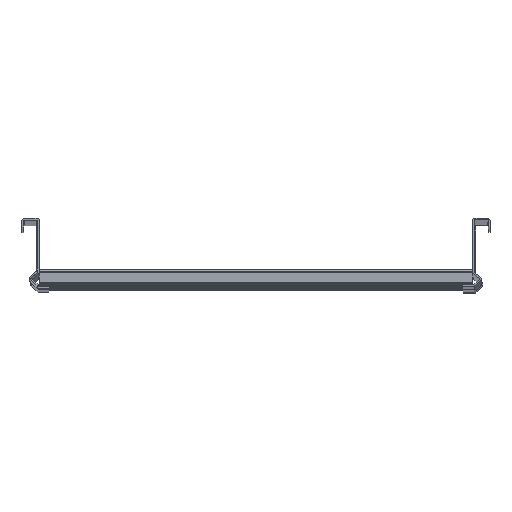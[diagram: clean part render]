
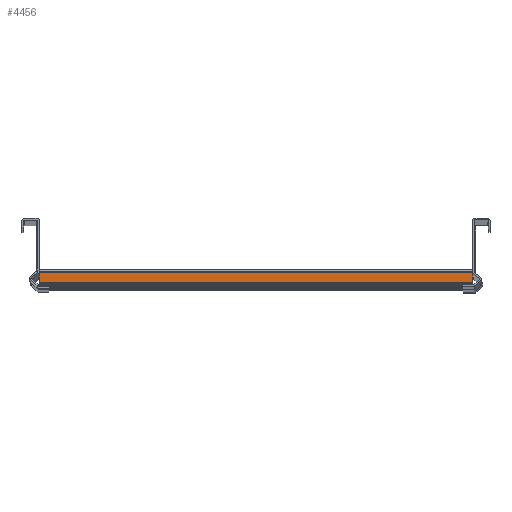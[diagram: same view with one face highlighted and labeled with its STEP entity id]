
A CAD part, top view. The second image highlights one B-rep face of the part: STEP entity #4456.
In plain terms, the highlighted planar face has unit normal (0, 0, 1) as drawn and (-1, 0, 0) by its records, which use the part's own axes.
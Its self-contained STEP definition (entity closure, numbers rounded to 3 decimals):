
#101 = DIRECTION ( 'NONE',  ( 0., 0., -1. ) ) ;
#104 = DIRECTION ( 'NONE',  ( 0., 0., -1. ) ) ;
#187 = LINE ( 'NONE', #611, #5132 ) ;
#200 = ORIENTED_EDGE ( 'NONE', *, *, #2991, .T. ) ;
#210 = VERTEX_POINT ( 'NONE', #1191 ) ;
#325 = CARTESIAN_POINT ( 'NONE',  ( -17.5, 2.5, 200. ) ) ;
#611 = CARTESIAN_POINT ( 'NONE',  ( -17.5, 14., 200. ) ) ;
#682 = LINE ( 'NONE', #2645, #1995 ) ;
#1011 = CARTESIAN_POINT ( 'NONE',  ( -17.5, 14., 200. ) ) ;
#1018 = AXIS2_PLACEMENT_3D ( 'NONE', #1011, #3415, #104 ) ;
#1046 = DIRECTION ( 'NONE',  ( 0., 0., -1. ) ) ;
#1191 = CARTESIAN_POINT ( 'NONE',  ( -17.5, 2.5, -200. ) ) ;
#1206 = ORIENTED_EDGE ( 'NONE', *, *, #4916, .F. ) ;
#1272 = VERTEX_POINT ( 'NONE', #325 ) ;
#1567 = CARTESIAN_POINT ( 'NONE',  ( -17.5, 2.5, 200. ) ) ;
#1582 = DIRECTION ( 'NONE',  ( 0., -1., 0. ) ) ;
#1960 = ORIENTED_EDGE ( 'NONE', *, *, #3462, .T. ) ;
#1995 = VECTOR ( 'NONE', #4946, 1000. ) ;
#2172 = VERTEX_POINT ( 'NONE', #5964 ) ;
#2206 = EDGE_CURVE ( 'NONE', #1272, #210, #4594, .T. ) ;
#2534 = EDGE_LOOP ( 'NONE', ( #1960, #6082, #1206, #200 ) ) ;
#2645 = CARTESIAN_POINT ( 'NONE',  ( -17.5, 14., -200. ) ) ;
#2991 = EDGE_CURVE ( 'NONE', #3187, #2172, #4987, .T. ) ;
#3187 = VERTEX_POINT ( 'NONE', #3898 ) ;
#3415 = DIRECTION ( 'NONE',  ( 1., 0., 0. ) ) ;
#3462 = EDGE_CURVE ( 'NONE', #2172, #210, #682, .T. ) ;
#3898 = CARTESIAN_POINT ( 'NONE',  ( -17.5, 11.5, 200. ) ) ;
#3960 = FACE_OUTER_BOUND ( 'NONE', #2534, .T. ) ;
#4240 = VECTOR ( 'NONE', #1046, 1000. ) ;
#4456 = ADVANCED_FACE ( 'NONE', ( #3960 ), #4952, .F. ) ;
#4493 = CARTESIAN_POINT ( 'NONE',  ( -17.5, 11.5, 200. ) ) ;
#4594 = LINE ( 'NONE', #1567, #4240 ) ;
#4916 = EDGE_CURVE ( 'NONE', #3187, #1272, #187, .T. ) ;
#4946 = DIRECTION ( 'NONE',  ( 0., -1., 0. ) ) ;
#4952 = PLANE ( 'NONE',  #1018 ) ;
#4987 = LINE ( 'NONE', #4493, #5990 ) ;
#5132 = VECTOR ( 'NONE', #1582, 1000. ) ;
#5964 = CARTESIAN_POINT ( 'NONE',  ( -17.5, 11.5, -200. ) ) ;
#5990 = VECTOR ( 'NONE', #101, 1000. ) ;
#6082 = ORIENTED_EDGE ( 'NONE', *, *, #2206, .F. ) ;
